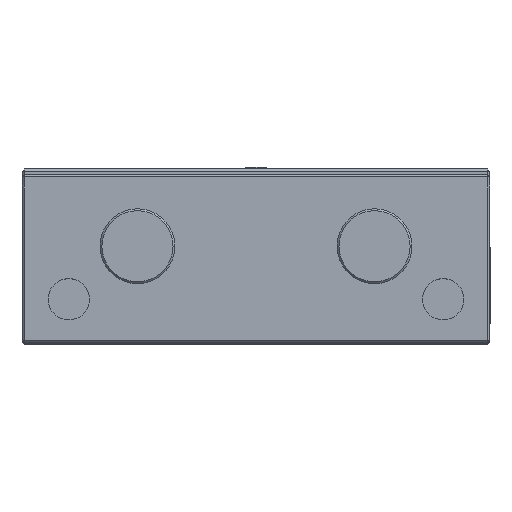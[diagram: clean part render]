
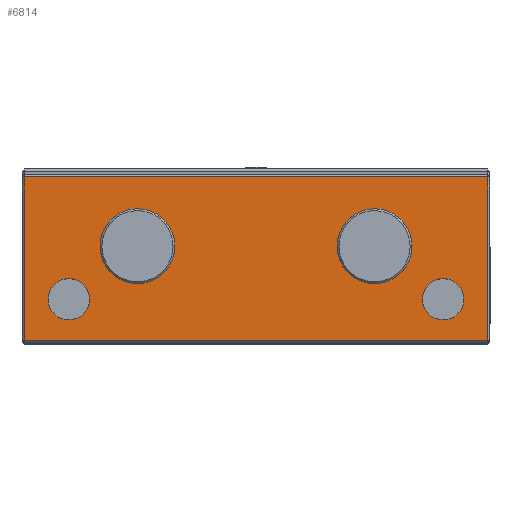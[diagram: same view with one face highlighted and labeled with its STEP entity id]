
A CAD part, top view. The second image highlights one B-rep face of the part: STEP entity #6814.
In plain terms, the highlighted planar face has unit normal (0, 0, 1).
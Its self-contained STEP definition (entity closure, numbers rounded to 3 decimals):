
#167 = VECTOR ( 'NONE', #9896, 1000. ) ;
#304 = FACE_BOUND ( 'NONE', #4386, .T. ) ;
#765 = EDGE_CURVE ( 'NONE', #12372, #1147, #15789, .T. ) ;
#777 = CARTESIAN_POINT ( 'NONE',  ( -37.1, 0.4, 180. ) ) ;
#855 = CARTESIAN_POINT ( 'NONE',  ( 37.5, 27., 180. ) ) ;
#1147 = VERTEX_POINT ( 'NONE', #21878 ) ;
#1150 = CARTESIAN_POINT ( 'NONE',  ( -33.3, 7., 180. ) ) ;
#1246 = AXIS2_PLACEMENT_3D ( 'NONE', #9391, #28061, #12077 ) ;
#2247 = CARTESIAN_POINT ( 'NONE',  ( -19., 15.5, 180. ) ) ;
#2623 = CARTESIAN_POINT ( 'NONE',  ( -30., 7., 180. ) ) ;
#2748 = VERTEX_POINT ( 'NONE', #15674 ) ;
#2832 = VERTEX_POINT ( 'NONE', #9278 ) ;
#3021 = CIRCLE ( 'NONE', #24593, 3.3 ) ;
#4070 = DIRECTION ( 'NONE',  ( 0., 0., -1. ) ) ;
#4169 = EDGE_LOOP ( 'NONE', ( #14720, #9167 ) ) ;
#4386 = EDGE_LOOP ( 'NONE', ( #20355, #26202 ) ) ;
#4586 = CARTESIAN_POINT ( 'NONE',  ( 37.5, 0.4, 180. ) ) ;
#4646 = VECTOR ( 'NONE', #14388, 1000. ) ;
#4899 = DIRECTION ( 'NONE',  ( -1., 0., 0. ) ) ;
#5282 = DIRECTION ( 'NONE',  ( -1., 0., 0. ) ) ;
#5464 = VECTOR ( 'NONE', #27122, 1000. ) ;
#6288 = EDGE_CURVE ( 'NONE', #25287, #29671, #13211, .T. ) ;
#6298 = PLANE ( 'NONE',  #29527 ) ;
#6659 = VERTEX_POINT ( 'NONE', #11399 ) ;
#6814 = ADVANCED_FACE ( 'NONE', ( #28687, #9052, #304, #14441, #20750 ), #6298, .T. ) ;
#9052 = FACE_BOUND ( 'NONE', #15297, .T. ) ;
#9166 = DIRECTION ( 'NONE',  ( 0., 0., -1. ) ) ;
#9167 = ORIENTED_EDGE ( 'NONE', *, *, #9829, .T. ) ;
#9192 = CIRCLE ( 'NONE', #28672, 3.3 ) ;
#9278 = CARTESIAN_POINT ( 'NONE',  ( 37.1, 0.4, 180. ) ) ;
#9305 = CARTESIAN_POINT ( 'NONE',  ( 30., 7., 180. ) ) ;
#9391 = CARTESIAN_POINT ( 'NONE',  ( 19., 15.5, 180. ) ) ;
#9829 = EDGE_CURVE ( 'NONE', #18936, #2748, #27317, .T. ) ;
#9896 = DIRECTION ( 'NONE',  ( 1., 0., 0. ) ) ;
#10019 = LINE ( 'NONE', #22359, #4646 ) ;
#11399 = CARTESIAN_POINT ( 'NONE',  ( -26.7, 7., 180. ) ) ;
#11982 = DIRECTION ( 'NONE',  ( -1., 0., 0. ) ) ;
#12077 = DIRECTION ( 'NONE',  ( -1., 0., 0. ) ) ;
#12372 = VERTEX_POINT ( 'NONE', #22075 ) ;
#12487 = VERTEX_POINT ( 'NONE', #1150 ) ;
#12537 = ORIENTED_EDGE ( 'NONE', *, *, #29174, .T. ) ;
#13017 = DIRECTION ( 'NONE',  ( 0., -1., 0. ) ) ;
#13211 = CIRCLE ( 'NONE', #24757, 6. ) ;
#14029 = ORIENTED_EDGE ( 'NONE', *, *, #29003, .T. ) ;
#14297 = DIRECTION ( 'NONE',  ( 1., 0., 0. ) ) ;
#14388 = DIRECTION ( 'NONE',  ( 0., 1., 0. ) ) ;
#14441 = FACE_BOUND ( 'NONE', #4169, .T. ) ;
#14501 = CARTESIAN_POINT ( 'NONE',  ( -30., 7., 180. ) ) ;
#14720 = ORIENTED_EDGE ( 'NONE', *, *, #29170, .T. ) ;
#15115 = DIRECTION ( 'NONE',  ( 0., 0., -1. ) ) ;
#15271 = CARTESIAN_POINT ( 'NONE',  ( 13., 15.5, 180. ) ) ;
#15297 = EDGE_LOOP ( 'NONE', ( #21904, #33285 ) ) ;
#15674 = CARTESIAN_POINT ( 'NONE',  ( -25., 15.5, 180. ) ) ;
#15789 = CIRCLE ( 'NONE', #20313, 3.3 ) ;
#16280 = CARTESIAN_POINT ( 'NONE',  ( 25., 15.5, 180. ) ) ;
#16681 = LINE ( 'NONE', #26315, #22987 ) ;
#17170 = DIRECTION ( 'NONE',  ( -1., 0., 0. ) ) ;
#18936 = VERTEX_POINT ( 'NONE', #23635 ) ;
#20036 = CARTESIAN_POINT ( 'NONE',  ( -19., 15.5, 180. ) ) ;
#20313 = AXIS2_PLACEMENT_3D ( 'NONE', #9305, #27975, #11982 ) ;
#20355 = ORIENTED_EDGE ( 'NONE', *, *, #29121, .T. ) ;
#20750 = FACE_BOUND ( 'NONE', #32795, .T. ) ;
#20863 = DIRECTION ( 'NONE',  ( 0., 0., -1. ) ) ;
#20939 = ORIENTED_EDGE ( 'NONE', *, *, #28846, .T. ) ;
#21239 = DIRECTION ( 'NONE',  ( 0., 0., -1. ) ) ;
#21878 = CARTESIAN_POINT ( 'NONE',  ( 26.7, 7., 180. ) ) ;
#21904 = ORIENTED_EDGE ( 'NONE', *, *, #29117, .T. ) ;
#21975 = ORIENTED_EDGE ( 'NONE', *, *, #6288, .T. ) ;
#22075 = CARTESIAN_POINT ( 'NONE',  ( 33.3, 7., 180. ) ) ;
#22359 = CARTESIAN_POINT ( 'NONE',  ( 37.1, 27., 180. ) ) ;
#22418 = VERTEX_POINT ( 'NONE', #777 ) ;
#22551 = CIRCLE ( 'NONE', #34320, 6. ) ;
#22696 = DIRECTION ( 'NONE',  ( -1., 0., 0. ) ) ;
#22987 = VECTOR ( 'NONE', #13017, 1000. ) ;
#23331 = VERTEX_POINT ( 'NONE', #30426 ) ;
#23380 = CIRCLE ( 'NONE', #25060, 3.3 ) ;
#23635 = CARTESIAN_POINT ( 'NONE',  ( -13., 15.5, 180. ) ) ;
#23673 = CARTESIAN_POINT ( 'NONE',  ( 37.1, 26.6, 180. ) ) ;
#24452 = EDGE_CURVE ( 'NONE', #22418, #2832, #28556, .T. ) ;
#24551 = CARTESIAN_POINT ( 'NONE',  ( -37.5, 26.6, 180. ) ) ;
#24593 = AXIS2_PLACEMENT_3D ( 'NONE', #2623, #21239, #5282 ) ;
#24757 = AXIS2_PLACEMENT_3D ( 'NONE', #31325, #15115, #34112 ) ;
#25060 = AXIS2_PLACEMENT_3D ( 'NONE', #25136, #9166, #27826 ) ;
#25136 = CARTESIAN_POINT ( 'NONE',  ( 30., 7., 180. ) ) ;
#25287 = VERTEX_POINT ( 'NONE', #16280 ) ;
#26202 = ORIENTED_EDGE ( 'NONE', *, *, #28211, .T. ) ;
#26315 = CARTESIAN_POINT ( 'NONE',  ( -37.1, 0., 180. ) ) ;
#27122 = DIRECTION ( 'NONE',  ( -1., 0., 0. ) ) ;
#27317 = CIRCLE ( 'NONE', #29590, 6. ) ;
#27826 = DIRECTION ( 'NONE',  ( -1., 0., 0. ) ) ;
#27975 = DIRECTION ( 'NONE',  ( 0., 0., -1. ) ) ;
#28061 = DIRECTION ( 'NONE',  ( 0., 0., -1. ) ) ;
#28145 = VERTEX_POINT ( 'NONE', #23673 ) ;
#28211 = EDGE_CURVE ( 'NONE', #6659, #12487, #3021, .T. ) ;
#28556 = LINE ( 'NONE', #4586, #167 ) ;
#28672 = AXIS2_PLACEMENT_3D ( 'NONE', #14501, #33454, #17170 ) ;
#28687 = FACE_OUTER_BOUND ( 'NONE', #29728, .T. ) ;
#28846 = EDGE_CURVE ( 'NONE', #23331, #22418, #16681, .T. ) ;
#29003 = EDGE_CURVE ( 'NONE', #28145, #23331, #34130, .T. ) ;
#29109 = EDGE_CURVE ( 'NONE', #2832, #28145, #10019, .T. ) ;
#29117 = EDGE_CURVE ( 'NONE', #1147, #12372, #23380, .T. ) ;
#29121 = EDGE_CURVE ( 'NONE', #12487, #6659, #9192, .T. ) ;
#29170 = EDGE_CURVE ( 'NONE', #2748, #18936, #22551, .T. ) ;
#29174 = EDGE_CURVE ( 'NONE', #29671, #25287, #29727, .T. ) ;
#29527 = AXIS2_PLACEMENT_3D ( 'NONE', #855, #30427, #14297 ) ;
#29590 = AXIS2_PLACEMENT_3D ( 'NONE', #2247, #20863, #4899 ) ;
#29671 = VERTEX_POINT ( 'NONE', #15271 ) ;
#29727 = CIRCLE ( 'NONE', #1246, 6. ) ;
#29728 = EDGE_LOOP ( 'NONE', ( #14029, #20939, #30621, #34513 ) ) ;
#30426 = CARTESIAN_POINT ( 'NONE',  ( -37.1, 26.6, 180. ) ) ;
#30427 = DIRECTION ( 'NONE',  ( 0., 0., 1. ) ) ;
#30621 = ORIENTED_EDGE ( 'NONE', *, *, #24452, .T. ) ;
#31325 = CARTESIAN_POINT ( 'NONE',  ( 19., 15.5, 180. ) ) ;
#32795 = EDGE_LOOP ( 'NONE', ( #12537, #21975 ) ) ;
#33285 = ORIENTED_EDGE ( 'NONE', *, *, #765, .T. ) ;
#33454 = DIRECTION ( 'NONE',  ( 0., 0., -1. ) ) ;
#34112 = DIRECTION ( 'NONE',  ( -1., 0., 0. ) ) ;
#34130 = LINE ( 'NONE', #24551, #5464 ) ;
#34320 = AXIS2_PLACEMENT_3D ( 'NONE', #20036, #4070, #22696 ) ;
#34513 = ORIENTED_EDGE ( 'NONE', *, *, #29109, .T. ) ;
